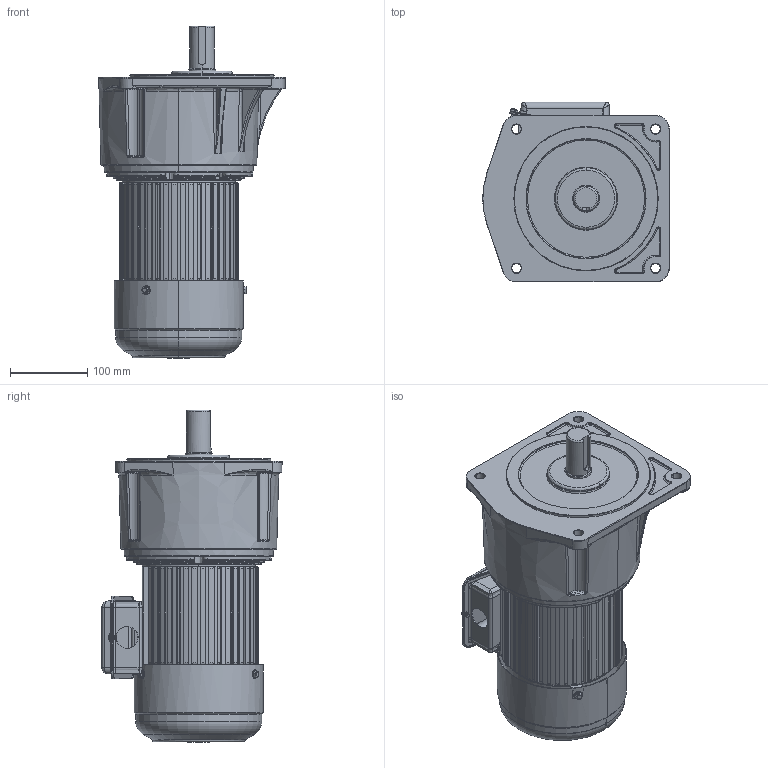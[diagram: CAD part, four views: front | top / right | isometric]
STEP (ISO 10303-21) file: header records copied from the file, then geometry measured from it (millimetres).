
FILE_DESCRIPTION (( 'STEP AP203' ), '1' );
FILE_NAME ('单相400W4#立式.STEP', '2015-10-31T05:08:52', ( '微软中国' ), ( '微软用户' ), 'SwSTEP 2.0', 'SolidWorks 2009', '' );
FILE_SCHEMA (( 'CONFIG_CONTROL_DESIGN' ));
Products named in the file (11): 等眈400W4#蕾宒; 4#蕾宒眊极; 等眈400W; 鞠褒蹟邡_GB_FASTENER_BOLT_HFBB M5X10-N; 棠憤迖殤400W; 等眈 瑞欶400W; 等眈諉盄碟窒璃; 400W儂褲; 等眈諉盄碟釱; 等眈諉盄碟裔; Cross recessed pan head screws GB_GB_CROSS_SCREWS_TYPE1 M5X6-6  H type-N
Assembly tree (12 placements, depth 4):
  等眈400W4#蕾宒
    4#蕾宒眊极
    等眈400W
      鞠褒蹟邡_GB_FASTENER_BOLT_HFBB M5X10-N  x3
      等眈 瑞欶400W
      等眈諉盄碟窒璃
        Cross recessed pan head screws GB_GB_CROSS_SCREWS_TYPE1 M5X6-6  H type-N
        等眈諉盄碟裔
        等眈諉盄碟釱
      400W儂褲
      棠憤迖殤400W
Bounding box: 241.97 x 233.57 x 430.5 mm (x, y, z)
Volume: 5276808.4 mm3; surface area: 718388.3 mm2
Topology: 10 solids, 12 shells, 2325 faces, 6128 edges, 3756 vertices
Faces by surface type: bspline 893, plane 805, cylinder 544, torus 47, cone 34, sphere 2
Entity records: 112591 total; most frequent: CARTESIAN_POINT 61829, ORIENTED_EDGE 11796, DIRECTION 8378, EDGE_CURVE 5898, VERTEX_POINT 3696, AXIS2_PLACEMENT_3D 2986, EDGE_LOOP 2566, VECTOR 2406
